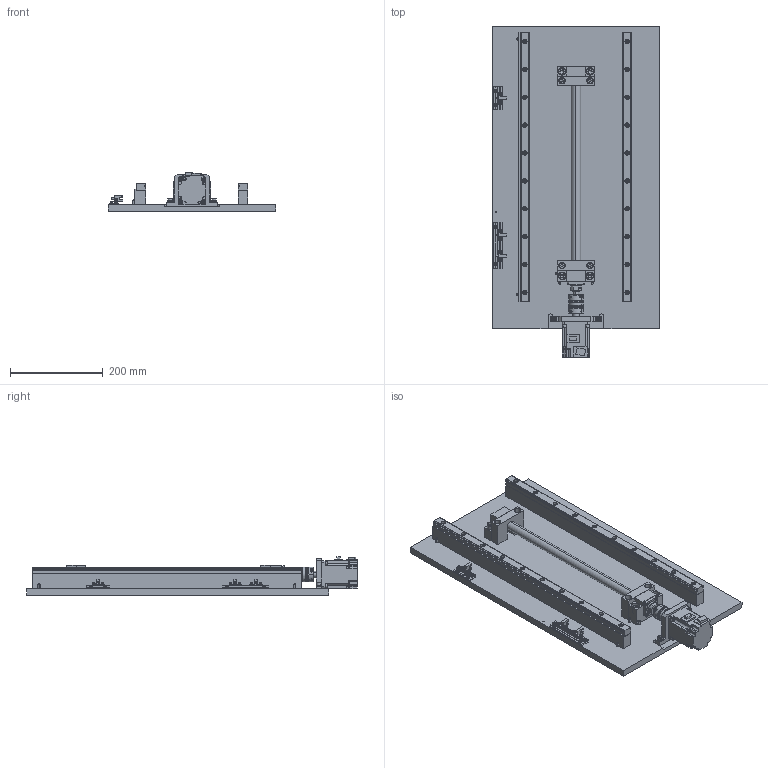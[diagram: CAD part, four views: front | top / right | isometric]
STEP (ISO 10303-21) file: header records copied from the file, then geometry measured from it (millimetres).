
FILE_DESCRIPTION (( 'STEP AP214' ), '1' );
FILE_NAME ('04_Single_axis_linear_guide_Base-22.STEP', '2020-07-21T05:45:00', ( '' ), ( '' ), 'SwSTEP 2.0', 'SolidWorks 2017', '' );
FILE_SCHEMA (( 'AUTOMOTIVE_DESIGN' ));
Length unit declared in the file: millimetre
Products named in the file (38): 0825_301_SPWF6; COLLAR_0825_002_BSW15; 0825_001_BSS2010-500; 0825_311_SCB3-8; 0825_312_SPWF3; 0825_Z_HG-KR23_1; 0825_303_SCB5-18; 0825_006_SV2RZ28-580; 0825_008_ABETE28-580-30; 0825_201_Plate; 04_Single_axis_linear_guide_Base-22; RAIL_0825_006_SV2RZ28-580; 0825_203_Bracket; HOUSING_0825_003_BUN15; 0825_308_SCB6-30; NAT_0825_002_BSW15; 0825_007_ABETA28-580-30; 0825_013_SENCF3-100; 0825_012_SENCF3-50; HOUSING_0825_002_BSW15; 0825_014_SQN3-25-19; 0825_015_MS5-20; 0825_101_Motor_HG-KR23; 0825_305_SCB8-30; BODY_0825_009_CPDW32-12-14; 0825_Z_HG-KR23_2; NEZI-1_0825_009_CPDW32-12-14; SHAFT_0825_001_BSS2010-500; 0825_309_SCB5-15; 0825_003_BUN15; 0825_009_CPDW32-12-14; 0825_011_FPMT45; 0825_302_SCB6-20; 0825_313_SCB3-6; 0825_005_BSTS15; 0825_002_BSW15; 0825_304_SCB10-35; BEARING_0825_003_BUN15
Assembly tree (115 placements, depth 3):
  04_Single_axis_linear_guide_Base-22
    0825_001_BSS2010-500
      SHAFT_0825_001_BSS2010-500
    0825_002_BSW15
      HOUSING_0825_002_BSW15
      COLLAR_0825_002_BSW15  x2
      NAT_0825_002_BSW15
    0825_003_BUN15
      HOUSING_0825_003_BUN15
      BEARING_0825_003_BUN15
    0825_005_BSTS15  x2
    0825_006_SV2RZ28-580  x2
      RAIL_0825_006_SV2RZ28-580
    0825_007_ABETA28-580-30
    0825_008_ABETE28-580-30
    0825_009_CPDW32-12-14
      BODY_0825_009_CPDW32-12-14
      NEZI-1_0825_009_CPDW32-12-14  x4
    0825_011_FPMT45  x3
    0825_012_SENCF3-50
    0825_013_SENCF3-100
    0825_014_SQN3-25-19  x3
    0825_101_Motor_HG-KR23
      0825_Z_HG-KR23_1
      0825_Z_HG-KR23_2
    0825_201_Plate
    0825_203_Bracket
    0825_015_MS5-20  x5
    0825_301_SPWF6  x2
    0825_302_SCB6-20  x2
    0825_303_SCB5-18  x4
    0825_304_SCB10-35  x4
    0825_305_SCB8-30  x4
    0825_308_SCB6-30  x18
    0825_309_SCB5-15  x20
    0825_312_SPWF3  x10
    0825_311_SCB3-8  x4
    0825_313_SCB3-6  x6
Bounding box: 360 x 711.6 x 83.8 mm (x, y, z)
Volume: 5299909.9 mm3; surface area: 966282.9 mm2
Topology: 109 solids, 109 shells, 2859 faces, 6678 edges, 4115 vertices
Faces by surface type: plane 1560, cylinder 921, cone 350, torus 18, sphere 10
Entity records: 53327 total; most frequent: CARTESIAN_POINT 7010, DIRECTION 6958, ORIENTED_EDGE 6006, EDGE_CURVE 3003, AXIS2_PLACEMENT_3D 2652, VERTEX_POINT 1952, LINE 1654, VECTOR 1654
